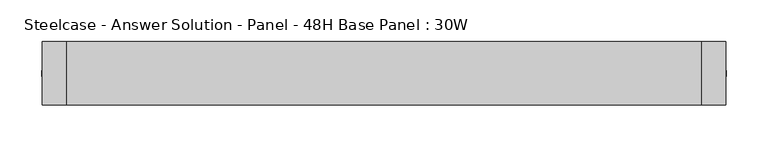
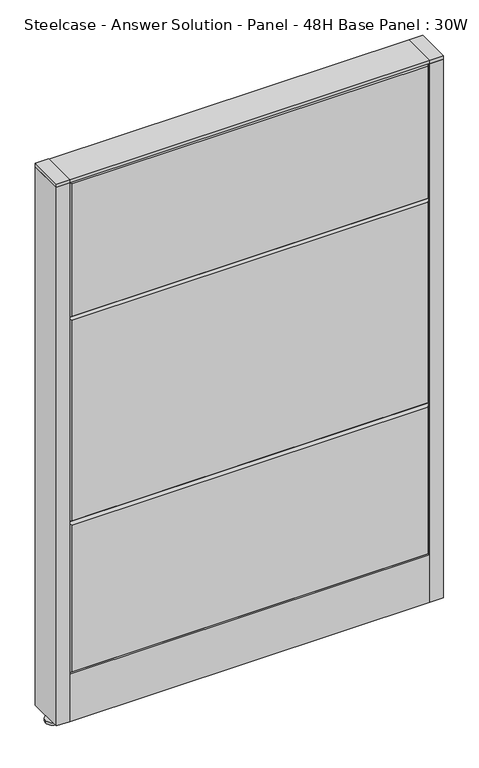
"""IFC4 building model written with IfcOpenShell, lengths in millimetres: furniture geometry, Steelcase - Answer Solution - Panel - 48H Base Panel : 30W."""

from ifc_helpers import new_model, si_unit, point, frame, frame_2d, origin, place, context, project, spatial, polyline, circle_curve, trimmed, segment, composite_curve, outline, extrude, faceted_brep, source, transform, mapped, element, save


def steelcase_answer_solution_panel_48h_base_panel_30w_c7fb221e(model_context):
    return source(origin(), model_context, "Body", "SolidModel", [
        extrude(outline(composite_curve([segment(trimmed(circle_curve(frame_2d((395.224, 0.0320214)), 5.08), [point((400.304, 0.0320214))], [point((390.144, 0.0320214))], False, "CARTESIAN"), True, "CONTINUOUS"), segment(trimmed(circle_curve(frame_2d((395.224, 0.0320214)), 5.08), [point((390.144, 0.0320214))], [point((400.304, 0.0320214))], False, "CARTESIAN"), True, "CONTINUOUS")], self_intersect=False)), frame((0.0, 0.0, 5.0799671), z_axis=(0.0, 0.0, 1.0), x_axis=(1.0, 0.0, 0.0)), (0.0, 0.0, 1.0), 10.414),
        extrude(outline(composite_curve([segment(trimmed(circle_curve(frame_2d((395.224, 0.0320214)), 15.24), [point((410.464, 0.0320214))], [point((379.984, 0.0320214))], False, "CARTESIAN"), True, "CONTINUOUS"), segment(trimmed(circle_curve(frame_2d((395.224, 0.0320214)), 15.24), [point((379.984, 0.0320214))], [point((410.464, 0.0320214))], False, "CARTESIAN"), True, "CONTINUOUS")], self_intersect=False)), frame((0.0, 0.0, -3.29e-05), z_axis=(0.0, 0.0, 1.0), x_axis=(1.0, 0.0, 0.0)), (0.0, 0.0, 1.0), 5.08),
        extrude(outline(polyline([(409.575, 38.1320408), (409.575, -38.0679592), (381.0, -38.0679592), (381.0, 38.1320408), (409.575, 38.1320408)])), frame((0.0, 0.0, 1218.2348), z_axis=(0.0, 0.0, 1.0), x_axis=(1.0, 0.0, 0.0)), (0.0, 0.0, 1.0), 7.3151671),
        extrude(outline(polyline([(409.575, 38.1320408), (409.575, -38.0679592), (381.0, -38.0679592), (381.0, 38.1320408), (409.575, 38.1320408)])), frame((0.0, 0.0, 15.4939671), z_axis=(0.0, 0.0, 1.0), x_axis=(1.0, 0.0, 0.0)), (0.0, 0.0, 1.0), 1202.7408329),
        extrude(outline(composite_curve([segment(trimmed(circle_curve(frame_2d((-395.224, 0.0320214)), 5.08), [point((-400.304, 0.0320214))], [point((-390.144, 0.0320214))], False, "CARTESIAN"), True, "CONTINUOUS"), segment(trimmed(circle_curve(frame_2d((-395.224, 0.0320214)), 5.08), [point((-390.144, 0.0320214))], [point((-400.304, 0.0320214))], False, "CARTESIAN"), True, "CONTINUOUS")], self_intersect=False)), frame((0.0, 0.0, 5.0799671), z_axis=(0.0, 0.0, 1.0), x_axis=(1.0, 0.0, 0.0)), (0.0, 0.0, 1.0), 10.414),
        extrude(outline(composite_curve([segment(trimmed(circle_curve(frame_2d((-395.224, 0.0320214)), 15.24), [point((-410.464, 0.0320214))], [point((-379.984, 0.0320214))], False, "CARTESIAN"), True, "CONTINUOUS"), segment(trimmed(circle_curve(frame_2d((-395.224, 0.0320214)), 15.24), [point((-379.984, 0.0320214))], [point((-410.464, 0.0320214))], False, "CARTESIAN"), True, "CONTINUOUS")], self_intersect=False)), frame((0.0, 0.0, -3.29e-05), z_axis=(0.0, 0.0, 1.0), x_axis=(1.0, 0.0, 0.0)), (0.0, 0.0, 1.0), 5.08),
        extrude(outline(polyline([(-409.575, 38.1320408), (-381.0, 38.1320408), (-381.0, -38.0679592), (-409.575, -38.0679592), (-409.575, 38.1320408)])), frame((0.0, 0.0, 1218.2348), z_axis=(0.0, 0.0, 1.0), x_axis=(1.0, 0.0, 0.0)), (0.0, 0.0, 1.0), 7.3151671),
        extrude(outline(polyline([(-409.575, 38.1320408), (-381.0, 38.1320408), (-381.0, -38.0679592), (-409.575, -38.0679592), (-409.575, 38.1320408)])), frame((0.0, 0.0, 15.4939671), z_axis=(0.0, 0.0, 1.0), x_axis=(1.0, 0.0, 0.0)), (0.0, 0.0, 1.0), 1202.7408329),
        faceted_brep([(-376.174, 38.1635011, 1214.374), (376.174, 38.1635011, 1214.374), (376.174, 38.1635011, 919.226), (-376.174, 38.1635011, 919.226), (-381.0, 33.3375011, 1219.2), (-381.0, 33.3375011, 914.4), (381.0, 33.3375011, 914.4), (381.0, 33.3375011, 1219.2)], [[[0, 1, 2, 3]], [[4, 5, 6, 7]], [[4, 7, 1, 0]], [[7, 6, 2, 1]], [[6, 5, 3, 2]], [[5, 4, 0, 3]]]),
        faceted_brep([(-376.174, 38.1635011, 909.574), (376.174, 38.1635011, 909.574), (376.174, 38.1635011, 462.026), (-376.174, 38.1635011, 462.026), (-381.0, 33.3375011, 914.4), (-381.0, 33.3375011, 457.2), (381.0, 33.3375011, 457.2), (381.0, 33.3375011, 914.4)], [[[0, 1, 2, 3]], [[4, 5, 6, 7]], [[4, 7, 1, 0]], [[7, 6, 2, 1]], [[6, 5, 3, 2]], [[5, 4, 0, 3]]]),
        faceted_brep([(-376.174, 38.1635011, 452.374), (376.174, 38.1635011, 452.374), (376.174, 38.1635011, 125.476), (-376.174, 38.1635011, 125.476), (-381.0, 33.3375011, 457.2), (-381.0, 33.3375011, 120.65), (381.0, 33.3375011, 120.65), (381.0, 33.3375011, 457.2)], [[[0, 1, 2, 3]], [[4, 5, 6, 7]], [[4, 7, 1, 0]], [[7, 6, 2, 1]], [[6, 5, 3, 2]], [[5, 4, 0, 3]]]),
        faceted_brep([(376.174, -38.1635011, 1214.374), (-376.174, -38.1635011, 1214.374), (-376.174, -38.1635011, 919.226), (376.174, -38.1635011, 919.226), (381.0, -33.3375011, 1219.2), (381.0, -33.3375011, 914.4), (-381.0, -33.3375011, 914.4), (-381.0, -33.3375011, 1219.2)], [[[0, 1, 2, 3]], [[4, 5, 6, 7]], [[4, 7, 1, 0]], [[7, 6, 2, 1]], [[6, 5, 3, 2]], [[5, 4, 0, 3]]]),
        faceted_brep([(376.174, -38.1635011, 909.574), (-376.174, -38.1635011, 909.574), (-376.174, -38.1635011, 462.026), (376.174, -38.1635011, 462.026), (381.0, -33.3375011, 914.4), (381.0, -33.3375011, 457.2), (-381.0, -33.3375011, 457.2), (-381.0, -33.3375011, 914.4)], [[[0, 1, 2, 3]], [[4, 5, 6, 7]], [[4, 7, 1, 0]], [[7, 6, 2, 1]], [[6, 5, 3, 2]], [[5, 4, 0, 3]]]),
        faceted_brep([(376.174, -38.1635011, 452.374), (-376.174, -38.1635011, 452.374), (-376.174, -38.1635011, 125.476), (376.174, -38.1635011, 125.476), (381.0, -33.3375011, 457.2), (381.0, -33.3375011, 120.65), (-381.0, -33.3375011, 120.65), (-381.0, -33.3375011, 457.2)], [[[0, 1, 2, 3]], [[4, 5, 6, 7]], [[4, 7, 1, 0]], [[7, 6, 2, 1]], [[6, 5, 3, 2]], [[5, 4, 0, 3]]]),
        extrude(outline(polyline([(381.0, 38.1000194), (381.0, -38.1000194), (-381.0, -38.1000194), (-381.0, 38.1000194), (381.0, 38.1000194)])), frame((0.0, 0.0, 1219.2), z_axis=(0.0, 0.0, 1.0), x_axis=(1.0, 0.0, 0.0)), (0.0, 0.0, 1.0), 6.35),
        extrude(outline(polyline([(25.4000011, 119.8575157), (25.4000011, 120.65), (38.1000194, 120.65), (38.1000194, 15.494), (37.3075215, 15.494), (37.3075215, 119.8575157), (25.4000011, 119.8575157)])), frame((-381.0, 0.0, 0.0), z_axis=(1.0, 0.0, 0.0), x_axis=(0.0, 1.0, 0.0)), (0.0, 0.0, 1.0), 762.0),
        extrude(outline(polyline([(-25.4000011, 119.8575157), (-37.3075215, 119.8575157), (-37.3075215, 15.494), (-38.1000194, 15.494), (-38.1000194, 120.65), (-25.4000011, 120.65), (-25.4000011, 119.8575157)])), frame((-381.0, 0.0, 0.0), z_axis=(1.0, 0.0, 0.0), x_axis=(0.0, 1.0, 0.0)), (0.0, 0.0, 1.0), 762.0),
    ])


if __name__ == "__main__":
    model = new_model("IFC4")
    model_context = context("Model", 3, world=origin())
    ifc_project = project(units=[si_unit("LENGTHUNIT", "METRE", prefix="MILLI")], contexts=[model_context])
    site = spatial("IfcSite", under=ifc_project)
    building = spatial("IfcBuilding", under=site)
    placement = place(None, origin())
    steelcase_answer_solution_panel_48h_base_panel_30w_shape = steelcase_answer_solution_panel_48h_base_panel_30w_c7fb221e(model_context)
    element("IfcFurniture", 1, ObjectType="Steelcase - Answer Solution - Panel - 48H Base Panel : 30W", at=placement, inside=building, context=model_context, shape_type="MappedRepresentation", body=[
        mapped(steelcase_answer_solution_panel_48h_base_panel_30w_shape, transform((0.0, 0.0, 0.0), x_axis=(1.0, 0.0, 0.0), y_axis=(0.0, 1.0, 0.0), z_axis=(0.0, 0.0, 1.0))),
    ])
    save(model, "model.ifc")
